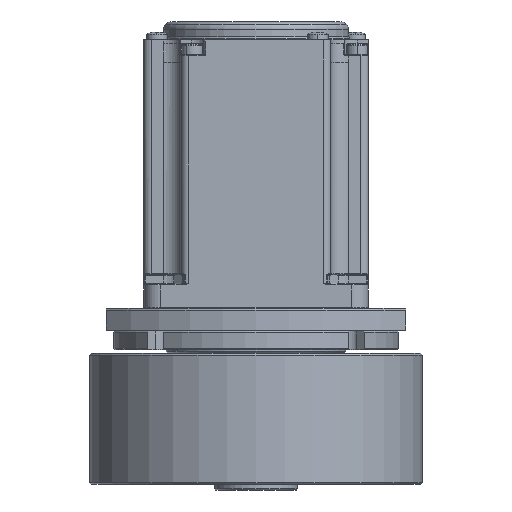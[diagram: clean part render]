
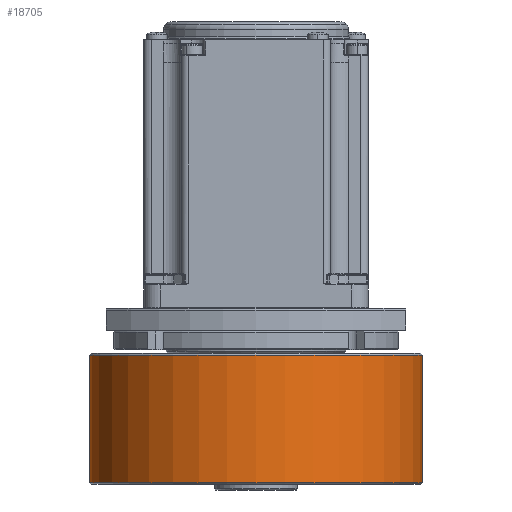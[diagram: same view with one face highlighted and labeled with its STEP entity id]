
A CAD part, left-side view. The second image highlights one B-rep face of the part: STEP entity #18705.
In plain terms, the highlighted cylindrical face has radius 44.5 mm (diameter 89 mm), a partial arc.
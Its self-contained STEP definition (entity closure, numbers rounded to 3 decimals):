
#18450=CARTESIAN_POINT('',(34.5,0.,0.));
#18451=DIRECTION('',(-1.,0.,0.));
#18452=DIRECTION('',(0.,0.,-1.));
#18453=AXIS2_PLACEMENT_3D('',#18450,#18451,#18452);
#18516=CARTESIAN_POINT('',(0.5,0.,0.));
#18517=DIRECTION('',(1.,0.,0.));
#18518=DIRECTION('',(0.,0.,1.));
#18519=AXIS2_PLACEMENT_3D('',#18516,#18517,#18518);
#18530=DIRECTION('',(-1.,0.,0.));
#18531=VECTOR('',#18530,34.);
#18532=CARTESIAN_POINT('',(34.5,0.,44.5));
#18533=LINE('',#18532,#18531);
#18534=DIRECTION('',(-1.,0.,0.));
#18535=VECTOR('',#18534,34.);
#18536=CARTESIAN_POINT('',(34.5,0.,-44.5));
#18537=LINE('',#18536,#18535);
#18539=CARTESIAN_POINT('',(34.5,0.,-44.5));
#18541=VERTEX_POINT('',#18539);
#18542=CARTESIAN_POINT('',(34.5,0.,44.5));
#18543=VERTEX_POINT('',#18542);
#18558=CARTESIAN_POINT('',(0.5,0.,44.5));
#18559=VERTEX_POINT('',#18558);
#18560=CARTESIAN_POINT('',(0.5,0.,-44.5));
#18561=VERTEX_POINT('',#18560);
#18694=CARTESIAN_POINT('',(-8.136,0.,0.));
#18695=DIRECTION('',(-1.,0.,0.));
#18696=DIRECTION('',(0.,0.,1.));
#18697=AXIS2_PLACEMENT_3D('',#18694,#18695,#18696);
#18698=CYLINDRICAL_SURFACE('',#18697,44.5);
#18699=ORIENTED_EDGE('',*,*,#18689,.T.);
#18700=ORIENTED_EDGE('',*,*,#18659,.F.);
#18701=ORIENTED_EDGE('',*,*,#18686,.F.);
#18702=ORIENTED_EDGE('',*,*,#18569,.F.);
#18703=EDGE_LOOP('',(#18699,#18700,#18701,#18702));
#18704=FACE_OUTER_BOUND('',#18703,.F.);
#18705=ADVANCED_FACE('',(#18704),#18698,.T.);
#18454=CIRCLE('',#18453,44.5);
#18520=CIRCLE('',#18519,44.5);
#18569=EDGE_CURVE('',#18541,#18543,#18454,.T.);
#18659=EDGE_CURVE('',#18559,#18561,#18520,.T.);
#18686=EDGE_CURVE('',#18543,#18559,#18533,.T.);
#18689=EDGE_CURVE('',#18541,#18561,#18537,.T.);
